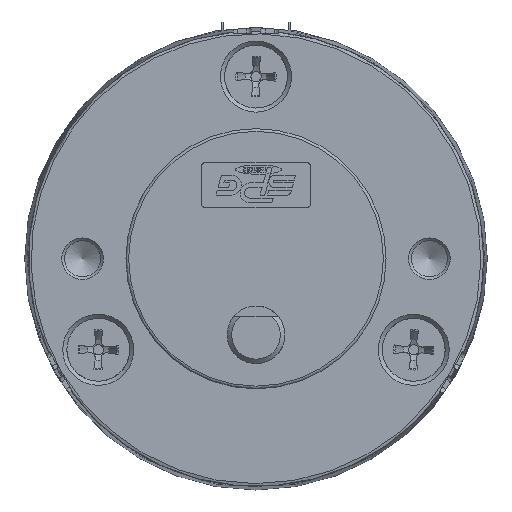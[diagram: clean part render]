
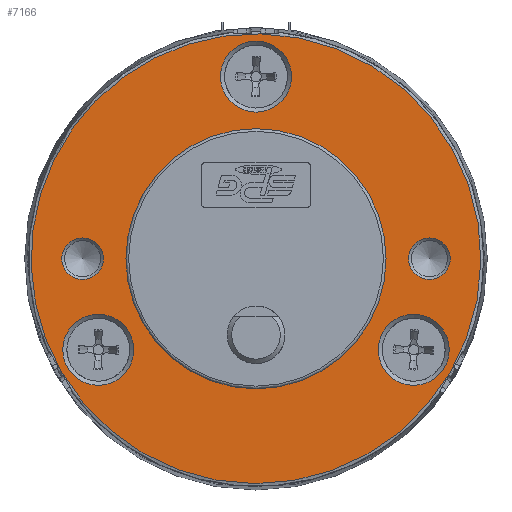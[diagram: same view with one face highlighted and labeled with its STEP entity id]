
A CAD part, front view. The second image highlights one B-rep face of the part: STEP entity #7166.
In plain terms, the highlighted planar face has unit normal (0, -1, 0).
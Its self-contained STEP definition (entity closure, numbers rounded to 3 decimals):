
#1461=CARTESIAN_POINT('',(-1.149,19.05,34.27));
#1462=VERTEX_POINT('',#1461);
#1463=CARTESIAN_POINT('',(-1.149,19.05,30.37));
#1464=DIRECTION('',(0.0,1.0,0.0));
#1465=DIRECTION('',(0.0,0.0,1.0));
#1466=AXIS2_PLACEMENT_3D('',#1463,#1464,#1465);
#1467=CIRCLE('',#1466,3.9);
#1468=EDGE_CURVE('',#1462,#1462,#1467,.T.);
#1526=CARTESIAN_POINT('',(-21.847,19.05,-1.58));
#1527=VERTEX_POINT('',#1526);
#1528=CARTESIAN_POINT('',(-18.469,19.05,0.37));
#1529=DIRECTION('',(0.0,1.0,0.0));
#1530=DIRECTION('',(-0.866,0.0,-0.5));
#1531=AXIS2_PLACEMENT_3D('',#1528,#1529,#1530);
#1532=CIRCLE('',#1531,3.9);
#1533=EDGE_CURVE('',#1527,#1527,#1532,.T.);
#1591=CARTESIAN_POINT('',(19.549,19.05,-1.58));
#1592=VERTEX_POINT('',#1591);
#1593=CARTESIAN_POINT('',(16.172,19.05,0.37));
#1594=DIRECTION('',(0.0,1.0,0.0));
#1595=DIRECTION('',(0.866,0.0,-0.5));
#1596=AXIS2_PLACEMENT_3D('',#1593,#1594,#1595);
#1597=CIRCLE('',#1596,3.9);
#1598=EDGE_CURVE('',#1592,#1592,#1597,.T.);
#6207=CARTESIAN_POINT('',(-22.543,19.05,-1.982));
#6208=VERTEX_POINT('',#6207);
#6209=CARTESIAN_POINT('',(-1.149,19.05,10.37));
#6210=DIRECTION('',(0.0,1.0,0.0));
#6211=DIRECTION('',(0.866,0.0,0.5));
#6212=AXIS2_PLACEMENT_3D('',#6209,#6210,#6211);
#6213=CIRCLE('',#6212,24.704);
#6214=EDGE_CURVE('',#6208,#6208,#6213,.T.);
#6999=CARTESIAN_POINT('',(13.139,19.05,10.37));
#7000=VERTEX_POINT('',#6999);
#7001=CARTESIAN_POINT('',(-1.149,19.05,10.37));
#7002=DIRECTION('',(0.0,1.0,0.0));
#7003=DIRECTION('',(-1.0,0.0,0.0));
#7004=AXIS2_PLACEMENT_3D('',#7001,#7002,#7003);
#7005=CIRCLE('',#7004,14.287);
#7006=EDGE_CURVE('',#7000,#7000,#7005,.T.);
#7100=CARTESIAN_POINT('',(20.182,19.05,10.37));
#7101=VERTEX_POINT('',#7100);
#7102=CARTESIAN_POINT('',(17.901,19.05,10.37));
#7103=DIRECTION('',(0.0,-1.0,0.0));
#7104=DIRECTION('',(-1.0,0.0,0.0));
#7105=AXIS2_PLACEMENT_3D('',#7102,#7103,#7104);
#7106=CIRCLE('',#7105,2.281);
#7107=EDGE_CURVE('',#7101,#7101,#7106,.T.);
#7132=CARTESIAN_POINT('',(-1.149,19.05,10.37));
#7133=DIRECTION('',(0.0,1.0,0.0));
#7134=DIRECTION('',(0.0,0.0,1.0));
#7135=AXIS2_PLACEMENT_3D('',#7132,#7133,#7134);
#7136=PLANE('',#7135);
#7137=ORIENTED_EDGE('',*,*,#6214,.F.);
#7138=EDGE_LOOP('',(#7137));
#7139=FACE_OUTER_BOUND('',#7138,.T.);
#7140=ORIENTED_EDGE('',*,*,#7107,.F.);
#7141=EDGE_LOOP('',(#7140));
#7142=FACE_BOUND('',#7141,.T.);
#7143=ORIENTED_EDGE('',*,*,#7006,.T.);
#7144=EDGE_LOOP('',(#7143));
#7145=FACE_BOUND('',#7144,.T.);
#7146=ORIENTED_EDGE('',*,*,#1468,.T.);
#7147=EDGE_LOOP('',(#7146));
#7148=FACE_BOUND('',#7147,.T.);
#7149=ORIENTED_EDGE('',*,*,#1533,.T.);
#7150=EDGE_LOOP('',(#7149));
#7151=FACE_BOUND('',#7150,.T.);
#7152=ORIENTED_EDGE('',*,*,#1598,.T.);
#7153=EDGE_LOOP('',(#7152));
#7154=FACE_BOUND('',#7153,.T.);
#7155=CARTESIAN_POINT('',(-17.918,19.05,10.37));
#7156=VERTEX_POINT('',#7155);
#7157=CARTESIAN_POINT('',(-20.199,19.05,10.37));
#7158=DIRECTION('',(0.0,-1.0,0.0));
#7159=DIRECTION('',(-1.0,0.0,0.0));
#7160=AXIS2_PLACEMENT_3D('',#7157,#7158,#7159);
#7161=CIRCLE('',#7160,2.281);
#7162=EDGE_CURVE('',#7156,#7156,#7161,.T.);
#7163=ORIENTED_EDGE('',*,*,#7162,.F.);
#7164=EDGE_LOOP('',(#7163));
#7165=FACE_BOUND('',#7164,.T.);
#7166=ADVANCED_FACE('',(#7139,#7142,#7145,#7148,#7151,#7154,#7165),#7136,.F.);
